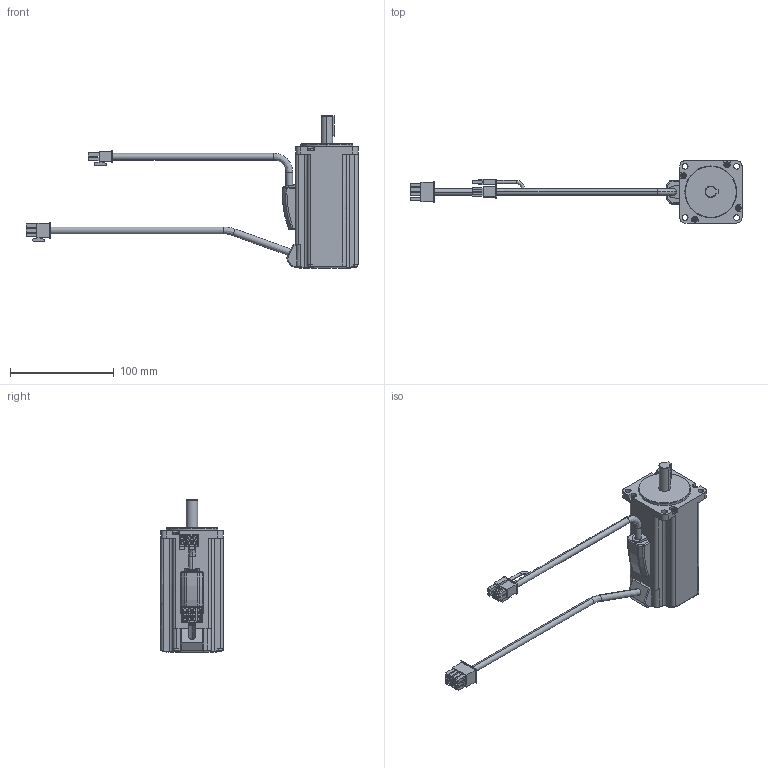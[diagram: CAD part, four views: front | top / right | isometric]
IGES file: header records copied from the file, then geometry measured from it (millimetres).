
Start section:  PTC IGES file: 10001007_rsmz-02ba_brake.igs
Global section: file name: 10001007_rsmz-02ba_brake.igs; native system: Pro/ENGINEER by Parametric Technology Corporation; preprocessor: 2004440; author: Administrator; organization: Unknown; date: 070829.201120; units: millimetre
Bounding box: 319.76 x 60 x 147 mm (x, y, z)
Volume: 402063.7 mm3; surface area: 53522.7 mm2
Topology: 1 solids, 1 shells, 526 faces, 1320 edges, 858 vertices
Faces by surface type: bspline 376, revolution 150
